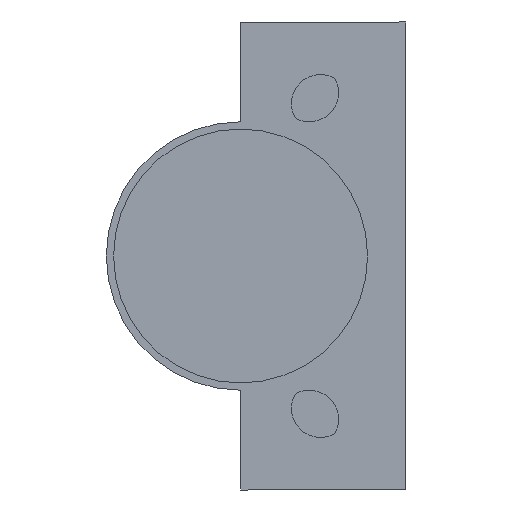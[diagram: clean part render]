
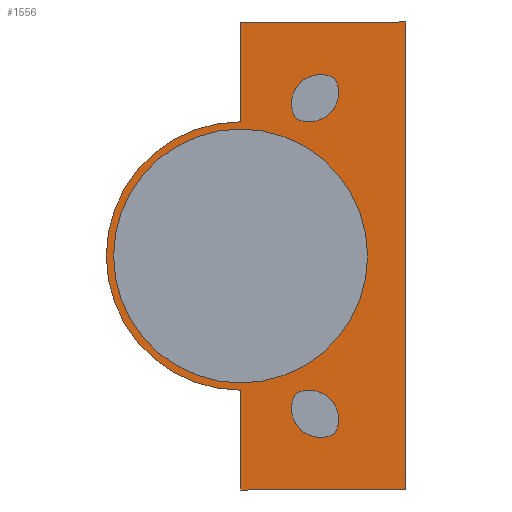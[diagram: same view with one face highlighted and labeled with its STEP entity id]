
A CAD part, front view. The second image highlights one B-rep face of the part: STEP entity #1556.
In plain terms, the highlighted planar face has unit normal (0, -1, 0).
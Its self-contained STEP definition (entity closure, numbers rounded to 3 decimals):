
#7 = EDGE_CURVE ( 'NONE', #497, #771, #556, .T. ) ;
#15 = ORIENTED_EDGE ( 'NONE', *, *, #839, .F. ) ;
#25 = CARTESIAN_POINT ( 'NONE',  ( 23., -38.5, 21. ) ) ;
#55 = AXIS2_PLACEMENT_3D ( 'NONE', #1206, #1317, #669 ) ;
#60 = CARTESIAN_POINT ( 'NONE',  ( 19., -38.5, 21. ) ) ;
#62 = DIRECTION ( 'NONE',  ( 0., 0., 1. ) ) ;
#85 = CARTESIAN_POINT ( 'NONE',  ( 21.5, -38.5, -22.5 ) ) ;
#110 = DIRECTION ( 'NONE',  ( 1., 0., 0. ) ) ;
#118 = VECTOR ( 'NONE', #529, 1000. ) ;
#119 = CARTESIAN_POINT ( 'NONE',  ( 19.523, -38.5, 19.023 ) ) ;
#127 = DIRECTION ( 'NONE',  ( 1., 0., 0. ) ) ;
#140 = EDGE_CURVE ( 'NONE', #823, #1430, #329, .T. ) ;
#145 = ORIENTED_EDGE ( 'NONE', *, *, #381, .F. ) ;
#146 = CARTESIAN_POINT ( 'NONE',  ( 24.977, -38.5, 24.477 ) ) ;
#167 = CARTESIAN_POINT ( 'NONE',  ( 12., -38.5, 0. ) ) ;
#190 = VERTEX_POINT ( 'NONE', #401 ) ;
#205 = CIRCLE ( 'NONE', #1393, 4. ) ;
#212 = DIRECTION ( 'NONE',  ( 0., -1., 0. ) ) ;
#231 = EDGE_CURVE ( 'NONE', #732, #1368, #937, .T. ) ;
#233 = CARTESIAN_POINT ( 'NONE',  ( 34.75, -38.5, -32.25 ) ) ;
#260 = VERTEX_POINT ( 'NONE', #961 ) ;
#278 = LINE ( 'NONE', #347, #645 ) ;
#289 = EDGE_CURVE ( 'NONE', #1368, #732, #913, .T. ) ;
#296 = DIRECTION ( 'NONE',  ( 1., 0., 0. ) ) ;
#315 = ORIENTED_EDGE ( 'NONE', *, *, #1236, .F. ) ;
#327 = DIRECTION ( 'NONE',  ( 1., 0., 0. ) ) ;
#329 = CIRCLE ( 'NONE', #1413, 4. ) ;
#347 = CARTESIAN_POINT ( 'NONE',  ( 34.75, -38.5, 32.25 ) ) ;
#362 = DIRECTION ( 'NONE',  ( 0., 1., 0. ) ) ;
#377 = EDGE_CURVE ( 'NONE', #190, #497, #1260, .T. ) ;
#381 = EDGE_CURVE ( 'NONE', #1223, #823, #205, .T. ) ;
#385 = LINE ( 'NONE', #1373, #1414 ) ;
#389 = VERTEX_POINT ( 'NONE', #1610 ) ;
#399 = CARTESIAN_POINT ( 'NONE',  ( 12., -38.5, 18.5 ) ) ;
#401 = CARTESIAN_POINT ( 'NONE',  ( 24.977, -38.5, -24.477 ) ) ;
#403 = VECTOR ( 'NONE', #327, 1000. ) ;
#405 = AXIS2_PLACEMENT_3D ( 'NONE', #85, #483, #603 ) ;
#434 = AXIS2_PLACEMENT_3D ( 'NONE', #167, #1221, #1583 ) ;
#450 = CIRCLE ( 'NONE', #745, 4. ) ;
#458 = EDGE_LOOP ( 'NONE', ( #775, #1482, #1420, #842, #315, #1305 ) ) ;
#483 = DIRECTION ( 'NONE',  ( 0., -1., 0. ) ) ;
#491 = CIRCLE ( 'NONE', #1611, 4. ) ;
#497 = VERTEX_POINT ( 'NONE', #746 ) ;
#499 = ORIENTED_EDGE ( 'NONE', *, *, #377, .F. ) ;
#502 = CARTESIAN_POINT ( 'NONE',  ( 34.75, -38.5, -32.25 ) ) ;
#508 = ORIENTED_EDGE ( 'NONE', *, *, #140, .F. ) ;
#510 = FACE_BOUND ( 'NONE', #1241, .T. ) ;
#529 = DIRECTION ( 'NONE',  ( 0., 0., 1. ) ) ;
#536 = VERTEX_POINT ( 'NONE', #233 ) ;
#556 = CIRCLE ( 'NONE', #1128, 4. ) ;
#560 = EDGE_CURVE ( 'NONE', #1430, #1223, #450, .T. ) ;
#588 = EDGE_CURVE ( 'NONE', #389, #536, #1434, .T. ) ;
#603 = DIRECTION ( 'NONE',  ( 1., 0., 0. ) ) ;
#645 = VECTOR ( 'NONE', #1115, 1000. ) ;
#656 = DIRECTION ( 'NONE',  ( 1., 0., 0. ) ) ;
#664 = DIRECTION ( 'NONE',  ( 0., -1., 0. ) ) ;
#669 = DIRECTION ( 'NONE',  ( -1., 0., 0. ) ) ;
#673 = CARTESIAN_POINT ( 'NONE',  ( 23., -38.5, -21. ) ) ;
#678 = CARTESIAN_POINT ( 'NONE',  ( 12., -38.5, 32.25 ) ) ;
#686 = CARTESIAN_POINT ( 'NONE',  ( 19., -38.5, -21. ) ) ;
#701 = CARTESIAN_POINT ( 'NONE',  ( 12., -38.5, 0. ) ) ;
#716 = DIRECTION ( 'NONE',  ( -1., 0., 0. ) ) ;
#732 = VERTEX_POINT ( 'NONE', #1299 ) ;
#745 = AXIS2_PLACEMENT_3D ( 'NONE', #1396, #1014, #110 ) ;
#746 = CARTESIAN_POINT ( 'NONE',  ( 19.523, -38.5, -19.023 ) ) ;
#751 = FACE_OUTER_BOUND ( 'NONE', #458, .T. ) ;
#756 = VERTEX_POINT ( 'NONE', #1202 ) ;
#771 = VERTEX_POINT ( 'NONE', #686 ) ;
#775 = ORIENTED_EDGE ( 'NONE', *, *, #903, .F. ) ;
#780 = AXIS2_PLACEMENT_3D ( 'NONE', #701, #1227, #716 ) ;
#789 = ORIENTED_EDGE ( 'NONE', *, *, #289, .F. ) ;
#790 = LINE ( 'NONE', #399, #118 ) ;
#798 = ORIENTED_EDGE ( 'NONE', *, *, #231, .F. ) ;
#823 = VERTEX_POINT ( 'NONE', #146 ) ;
#839 = EDGE_CURVE ( 'NONE', #771, #190, #491, .T. ) ;
#842 = ORIENTED_EDGE ( 'NONE', *, *, #964, .F. ) ;
#856 = FACE_BOUND ( 'NONE', #1642, .T. ) ;
#877 = VECTOR ( 'NONE', #127, 1000. ) ;
#903 = EDGE_CURVE ( 'NONE', #389, #1283, #385, .T. ) ;
#913 = CIRCLE ( 'NONE', #780, 17.5 ) ;
#917 = ORIENTED_EDGE ( 'NONE', *, *, #7, .F. ) ;
#937 = CIRCLE ( 'NONE', #434, 17.5 ) ;
#961 = CARTESIAN_POINT ( 'NONE',  ( 12., -38.5, 18.5 ) ) ;
#964 = EDGE_CURVE ( 'NONE', #1301, #756, #1151, .T. ) ;
#1013 = PLANE ( 'NONE',  #1086 ) ;
#1014 = DIRECTION ( 'NONE',  ( 0., -1., 0. ) ) ;
#1048 = DIRECTION ( 'NONE',  ( 0., -1., 0. ) ) ;
#1051 = EDGE_CURVE ( 'NONE', #756, #536, #278, .T. ) ;
#1086 = AXIS2_PLACEMENT_3D ( 'NONE', #1391, #362, #1248 ) ;
#1090 = CARTESIAN_POINT ( 'NONE',  ( 29.5, -38.5, 0. ) ) ;
#1094 = EDGE_LOOP ( 'NONE', ( #145, #1281, #508 ) ) ;
#1115 = DIRECTION ( 'NONE',  ( 0., 0., -1. ) ) ;
#1118 = DIRECTION ( 'NONE',  ( 1., 0., 0. ) ) ;
#1128 = AXIS2_PLACEMENT_3D ( 'NONE', #1523, #1048, #656 ) ;
#1151 = LINE ( 'NONE', #1346, #403 ) ;
#1189 = CARTESIAN_POINT ( 'NONE',  ( 12., -38.5, -18.5 ) ) ;
#1197 = DIRECTION ( 'NONE',  ( 1., 0., 0. ) ) ;
#1202 = CARTESIAN_POINT ( 'NONE',  ( 34.75, -38.5, 32.25 ) ) ;
#1206 = CARTESIAN_POINT ( 'NONE',  ( 12., -38.5, 0. ) ) ;
#1221 = DIRECTION ( 'NONE',  ( 0., -1., 0. ) ) ;
#1223 = VERTEX_POINT ( 'NONE', #119 ) ;
#1227 = DIRECTION ( 'NONE',  ( 0., -1., 0. ) ) ;
#1236 = EDGE_CURVE ( 'NONE', #260, #1301, #790, .T. ) ;
#1241 = EDGE_LOOP ( 'NONE', ( #499, #15, #917 ) ) ;
#1248 = DIRECTION ( 'NONE',  ( -1., 0., 0. ) ) ;
#1249 = CARTESIAN_POINT ( 'NONE',  ( 21.5, -38.5, 22.5 ) ) ;
#1260 = CIRCLE ( 'NONE', #405, 4. ) ;
#1261 = FACE_BOUND ( 'NONE', #1094, .T. ) ;
#1281 = ORIENTED_EDGE ( 'NONE', *, *, #560, .F. ) ;
#1283 = VERTEX_POINT ( 'NONE', #1189 ) ;
#1287 = EDGE_CURVE ( 'NONE', #1283, #260, #1383, .T. ) ;
#1299 = CARTESIAN_POINT ( 'NONE',  ( -5.5, -38.5, 0. ) ) ;
#1301 = VERTEX_POINT ( 'NONE', #678 ) ;
#1305 = ORIENTED_EDGE ( 'NONE', *, *, #1287, .F. ) ;
#1317 = DIRECTION ( 'NONE',  ( 0., 1., 0. ) ) ;
#1346 = CARTESIAN_POINT ( 'NONE',  ( 34.75, -38.5, 32.25 ) ) ;
#1368 = VERTEX_POINT ( 'NONE', #1090 ) ;
#1373 = CARTESIAN_POINT ( 'NONE',  ( 12., -38.5, -31. ) ) ;
#1383 = CIRCLE ( 'NONE', #55, 18.5 ) ;
#1391 = CARTESIAN_POINT ( 'NONE',  ( 12., -38.5, 0. ) ) ;
#1393 = AXIS2_PLACEMENT_3D ( 'NONE', #1249, #212, #1118 ) ;
#1396 = CARTESIAN_POINT ( 'NONE',  ( 23., -38.5, 21. ) ) ;
#1413 = AXIS2_PLACEMENT_3D ( 'NONE', #25, #664, #1197 ) ;
#1414 = VECTOR ( 'NONE', #62, 1000. ) ;
#1420 = ORIENTED_EDGE ( 'NONE', *, *, #1051, .F. ) ;
#1430 = VERTEX_POINT ( 'NONE', #60 ) ;
#1434 = LINE ( 'NONE', #502, #877 ) ;
#1482 = ORIENTED_EDGE ( 'NONE', *, *, #588, .T. ) ;
#1523 = CARTESIAN_POINT ( 'NONE',  ( 23., -38.5, -21. ) ) ;
#1556 = ADVANCED_FACE ( 'NONE', ( #751, #1261, #856, #510 ), #1013, .F. ) ;
#1557 = DIRECTION ( 'NONE',  ( 0., -1., 0. ) ) ;
#1583 = DIRECTION ( 'NONE',  ( -1., 0., 0. ) ) ;
#1610 = CARTESIAN_POINT ( 'NONE',  ( 12., -38.5, -32.25 ) ) ;
#1611 = AXIS2_PLACEMENT_3D ( 'NONE', #673, #1557, #296 ) ;
#1642 = EDGE_LOOP ( 'NONE', ( #798, #789 ) ) ;
